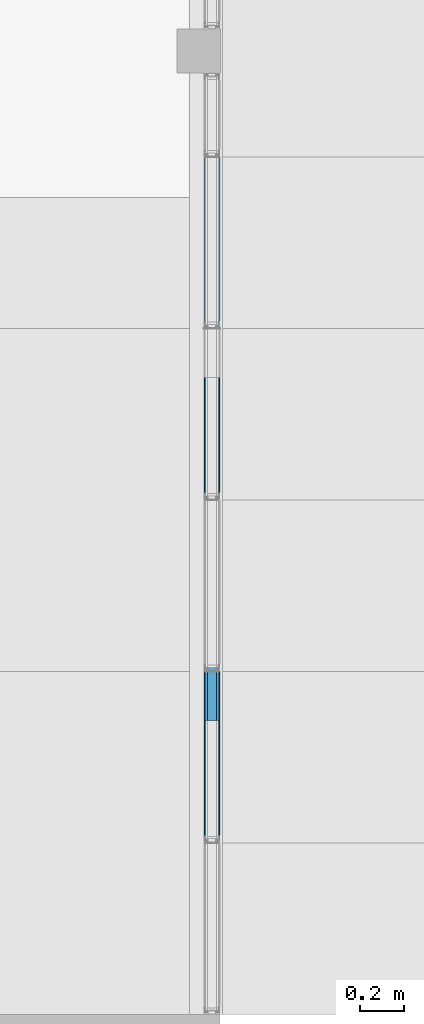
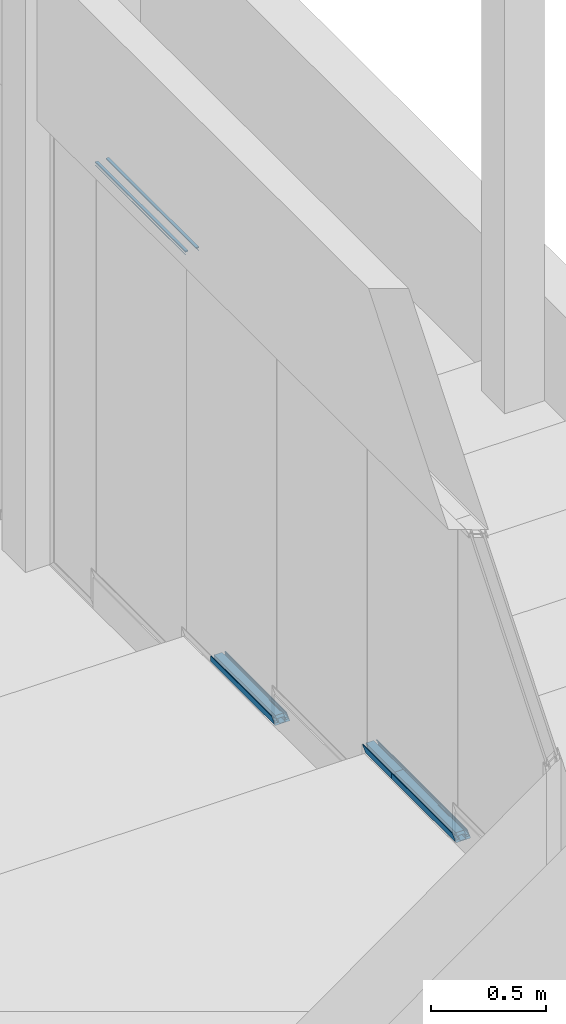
# One storey, part 41 of 65: 7 building element parts, 5 elements without a shape of their own.
"""IFC2X3 building model written with IfcOpenShell, lengths in millimetres."""

import ifcopenshell
import ifcopenshell.guid

model = None  # the IFC model being written
_history = None  # IfcOwnerHistory: only IFC2X3 demands one
_inside = {}  # id of a spatial element -> (the spatial element, [elements in it])
_under = {}  # id of a project, library or spatial element -> (it, [spatial elements below it])
_declared = {}  # id of a project -> (the project, [libraries it declares])
_typed = {}  # id of a type object -> (the type object, [elements of that type])
_made_of = {}  # id of a material, layer set ... -> (it, [elements and type objects made of it])


def new_model(schema):
    """Start an empty IFC model of exactly this schema.

    Asked for "IFC4X3", IfcOpenShell would pick the latest addendum, in which some entities
    have other attributes; the version numbers below select the first issue.
    IFC2X3 requires an IfcOwnerHistory on every rooted entity: one is made here for all.
    """
    global model, _history
    if schema == "IFC4X3":
        model = ifcopenshell.file(schema_version=(4, 3, 0, 0))
    else:
        model = ifcopenshell.file(schema=schema)
    _inside.clear()
    _under.clear()
    _declared.clear()
    _typed.clear()
    _made_of.clear()
    _history = None
    if model.schema == "IFC2X3":
        org = make("IfcOrganization", Name="unknown")
        user = make(
            "IfcPersonAndOrganization",
            ThePerson=make("IfcPerson", FamilyName="unknown"),
            TheOrganization=org,
        )
        app = make(
            "IfcApplication",
            ApplicationDeveloper=org,
            Version="unknown",
            ApplicationFullName="unknown",
            ApplicationIdentifier="unknown",
        )
        _history = make(
            "IfcOwnerHistory",
            OwningUser=user,
            OwningApplication=app,
            ChangeAction="ADDED",
            CreationDate=0,
        )
    return model


def make(cls, **values):
    """One entity of the class cls with the attributes given. An attribute that is None is left unset."""
    return model.create_entity(
        cls, **{name: value for name, value in values.items() if value is not None}
    )


def entity(cls, *values):
    """Any entity or typed value of the class cls, its attributes in the order of the schema. None: left unset."""
    e = model.create_entity(cls)
    for i, value in enumerate(values):
        if value is not None:
            e[i] = value
    return e


def rooted(cls, **values):
    """An entity with a GlobalId (a new one), such as an element, a storey or a relation."""
    return make(cls, GlobalId=ifcopenshell.guid.new(), OwnerHistory=_history, **values)


def si_unit(unit_type, name, prefix=None):
    """IfcSIUnit, for example si_unit("LENGTHUNIT", "METRE", prefix="MILLI")."""
    return make("IfcSIUnit", UnitType=unit_type, Prefix=prefix, Name=name)


def converted_unit(unit_type, name, factor, base, dimensions=None, offset=None):
    """IfcConversionBasedUnit, such as the inch: factor (a typed value) times the base unit."""
    return make(
        "IfcConversionBasedUnit"
        if offset is None
        else "IfcConversionBasedUnitWithOffset",
        ConversionOffset=offset,
        Dimensions=None
        if dimensions is None
        else entity("IfcDimensionalExponents", *dimensions),
        UnitType=unit_type,
        Name=name,
        ConversionFactor=make(
            "IfcMeasureWithUnit", ValueComponent=factor, UnitComponent=base
        ),
    )


def derived_unit(unit_type, elements):
    """IfcDerivedUnit: a product of units, each with its exponent."""
    return make(
        "IfcDerivedUnit",
        Elements=[
            make("IfcDerivedUnitElement", Unit=unit, Exponent=power)
            for unit, power in elements
        ],
        UnitType=unit_type,
    )


def money_unit(currency):
    """IfcMonetaryUnit."""
    return make("IfcMonetaryUnit", Currency=currency)


def assignment(units):
    """IfcUnitAssignment: the units of a project."""
    return None if units is None else make("IfcUnitAssignment", Units=units)


def point(xyz):
    """IfcCartesianPoint."""
    return None if xyz is None else make("IfcCartesianPoint", Coordinates=xyz)


def direction(xyz):
    """IfcDirection."""
    return None if xyz is None else make("IfcDirection", DirectionRatios=xyz)


def frame(location, z_axis=None, x_axis=None):
    """IfcAxis2Placement3D, a coordinate frame: its origin and axes. An axis left out is left unset."""
    return make(
        "IfcAxis2Placement3D",
        Location=point(location),
        Axis=direction(z_axis),
        RefDirection=direction(x_axis),
    )


def origin_with_axes():
    """The frame at (0, 0, 0) with the z axis (0, 0, 1) and the x axis (1, 0, 0) written out."""
    return frame((0.0, 0.0, 0.0), z_axis=(0.0, 0.0, 1.0), x_axis=(1.0, 0.0, 0.0))


def place(relative_to, where):
    """IfcLocalPlacement: puts the frame where relative to a parent placement (None: the world)."""
    return make(
        "IfcLocalPlacement", PlacementRelTo=relative_to, RelativePlacement=where
    )


def context(
    kind, dimensions, precision=None, world=None, true_north=None, identifier=None
):
    """IfcGeometricRepresentationContext, for example the 3D "Model" context."""
    return make(
        "IfcGeometricRepresentationContext",
        ContextIdentifier=identifier,
        ContextType=kind,
        CoordinateSpaceDimension=dimensions,
        Precision=precision,
        WorldCoordinateSystem=world,
        TrueNorth=true_north,
    )


def subcontext(parent, identifier, kind, view, scale=None):
    """IfcGeometricRepresentationSubContext, for example "Body" below "Model"."""
    return make(
        "IfcGeometricRepresentationSubContext",
        ContextIdentifier=identifier,
        ContextType=kind,
        ParentContext=parent,
        TargetScale=scale,
        TargetView=view,
    )


def project(units=None, contexts=None):
    """IfcProject with its units and contexts."""
    return rooted(
        "IfcProject",
        Name="project",
        RepresentationContexts=contexts,
        UnitsInContext=assignment(units),
    )


def spatial(cls, under=None, at=None, **own):
    """A site, building, storey or space (cls), placed at a placement, below another one or the project."""
    s = rooted(cls, ObjectPlacement=at, **own)
    if under is not None:
        _under.setdefault(under.id(), (under, []))[1].append(s)
    return s


def faces_of(points, faces, orient=None, outer=None):
    """IfcFace entities. A face is a list of loops; a loop is a list of indices into points, from 0.

    orient and outer hold one flag for each loop. By default every Orientation is true, the
    first loop of a face is its IfcFaceOuterBound and the others are IfcFaceBound.
    """
    made = []
    for i, loops in enumerate(faces):
        bounds = []
        for j, loop in enumerate(loops):
            is_outer = j == 0 if outer is None else outer[i][j]
            bounds.append(
                make(
                    "IfcFaceOuterBound" if is_outer else "IfcFaceBound",
                    Bound=make("IfcPolyLoop", Polygon=[points[k] for k in loop]),
                    Orientation=True if orient is None else orient[i][j],
                )
            )
        made.append(make("IfcFace", Bounds=bounds))
    return made


def faceted_brep(points, faces, orient=None, outer=None, voids=None):
    """IfcFacetedBrep: a solid bounded by flat faces; with voids (closed shells), ...WithVoids."""
    shared = [point(p) for p in points]
    hull = make("IfcClosedShell", CfsFaces=faces_of(shared, faces, orient, outer))
    if voids is None:
        return make("IfcFacetedBrep", Outer=hull)
    return make(
        "IfcFacetedBrepWithVoids",
        Outer=hull,
        Voids=[
            make(cls, CfsFaces=faces_of(shared, fs, o, b)) for cls, fs, o, b in voids
        ],
    )


def shape(context_of_items, identifier, shape_type, items):
    """IfcShapeRepresentation: the items that make up one representation, for example the "Body"."""
    return make(
        "IfcShapeRepresentation",
        ContextOfItems=context_of_items,
        RepresentationIdentifier=identifier,
        RepresentationType=shape_type,
        Items=items,
    )


def material(Name=None, Category=None):
    """IfcMaterial."""
    return make("IfcMaterial", Name=Name, Category=Category)


def made_of(thing, what):
    """Note that an element or type object is made of a material, layer set ...; save() writes the relation."""
    if what is not None:
        _made_of.setdefault(what.id(), (what, []))[1].append(thing)
    return thing


def type_object(cls, material=None, **own):
    """A type object (cls), such as IfcWallType, which elements share."""
    return made_of(rooted(cls, **own), material)


def element(
    cls,
    number,
    at=None,
    inside=None,
    cuts=None,
    type_object=None,
    material=None,
    context=None,
    identifier="Body",
    shape_type=None,
    held_by="IfcProductDefinitionShape",
    body=None,
    shapes=None,
    **own,
):
    """One element of the class cls, such as IfcWall. Its Tag is "e" and its number.

    at: its placement. inside: the storey or other place that contains it. cuts: it is an
    opening in that element (IfcRelVoidsElement). A single representation is given by context,
    identifier, shape_type and body (its items); several are given by shapes. held_by: the class
    of the entity that holds the representations. save() writes the other relations.
    """
    e = rooted(cls, Tag="e%d" % number, ObjectPlacement=at, **own)
    if body is not None:
        shapes = [shape(context, identifier, shape_type, body)]
    if shapes is not None:
        e.Representation = make(held_by, Representations=shapes)
    if inside is not None:
        _inside.setdefault(inside.id(), (inside, []))[1].append(e)
    if cuts is not None:
        rooted(
            "IfcRelVoidsElement", RelatingBuildingElement=cuts, RelatedOpeningElement=e
        )
    if type_object is not None:
        _typed.setdefault(type_object.id(), (type_object, []))[1].append(e)
    return made_of(e, material)


def aggregate(whole, parts):
    """IfcRelAggregates: a whole, such as a stair, and the parts it consists of."""
    return rooted("IfcRelAggregates", RelatingObject=whole, RelatedObjects=parts)


def save(model, path):
    """Write the relations noted so far, then the file.

    IfcRelAggregates (storeys below a building ...), IfcRelContainedInSpatialStructure (elements
    in a storey), IfcRelDefinesByType, IfcRelAssociatesMaterial and IfcRelDeclares: one each for
    every whole, place, type object, material and project.
    """
    for whole, parts in _under.values():
        aggregate(whole, parts)
    for where, things in _inside.values():
        rooted(
            "IfcRelContainedInSpatialStructure",
            RelatedElements=things,
            RelatingStructure=where,
        )
    for kind, things in _typed.values():
        rooted("IfcRelDefinesByType", RelatedObjects=things, RelatingType=kind)
    for what, things in _made_of.values():
        rooted("IfcRelAssociatesMaterial", RelatedObjects=things, RelatingMaterial=what)
    for by, libraries in _declared.values():
        rooted("IfcRelDeclares", RelatingContext=by, RelatedDefinitions=libraries)
    model.write(path)


model = new_model("IFC2X3")

# Units and contexts
model_context = context("Model", 3, precision=0.01, world=origin_with_axes(), true_north=direction((0.0, 1.0)))
body_context = subcontext(model_context, "Body", "Model", "MODEL_VIEW")
ifc_project = project(units=[si_unit("LENGTHUNIT", "METRE", prefix="MILLI"), si_unit("AREAUNIT", "SQUARE_METRE"), si_unit("VOLUMEUNIT", "CUBIC_METRE"), converted_unit("PLANEANGLEUNIT", "DEGREE", entity("IfcPlaneAngleMeasure", 0.0174532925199), si_unit("PLANEANGLEUNIT", "RADIAN"), dimensions=[0, 0, 0, 0, 0, 0, 0]), si_unit("SOLIDANGLEUNIT", "STERADIAN"), money_unit("EUR"), converted_unit("TIMEUNIT", "Year", entity("IfcTimeMeasure", 31556926.0), si_unit("TIMEUNIT", "SECOND"), dimensions=[0, 0, 1, 0, 0, 0, 0]), si_unit("MASSUNIT", "GRAM", prefix="KILO"), si_unit("THERMODYNAMICTEMPERATUREUNIT", "DEGREE_CELSIUS"), si_unit("LUMINOUSINTENSITYUNIT", "LUMEN"), si_unit("ENERGYUNIT", "JOULE", prefix="MEGA"), derived_unit("THERMALCONDUCTANCEUNIT", [(si_unit("POWERUNIT", "WATT"), 1), (si_unit("LENGTHUNIT", "METRE"), -1), (si_unit("THERMODYNAMICTEMPERATUREUNIT", "KELVIN"), -1)]), derived_unit("SPECIFICHEATCAPACITYUNIT", [(si_unit("ENERGYUNIT", "JOULE"), 1), (si_unit("MASSUNIT", "GRAM", prefix="KILO"), -1), (si_unit("THERMODYNAMICTEMPERATUREUNIT", "KELVIN"), -1)]), derived_unit("MASSDENSITYUNIT", [(si_unit("MASSUNIT", "GRAM", prefix="KILO"), 1), (si_unit("VOLUMEUNIT", "CUBIC_METRE"), -1)])], contexts=[model_context])

# Site, building, storey
site_placement = place(None, origin_with_axes())
site = spatial("IfcSite", under=ifc_project, at=site_placement, Name="Puškini 31, Narva", CompositionType="ELEMENT")
building_placement = place(site_placement, origin_with_axes())
building = spatial("IfcBuilding", under=site, at=building_placement, Name="Narva Riigigümnaasium", CompositionType="ELEMENT")
storey_placement = place(building_placement, frame((0.0, 0.0, -1320.0), z_axis=(0.0, 0.0, 1.0), x_axis=(1.0, 0.0, 0.0)))
storey = spatial("IfcBuildingStorey", under=building, at=storey_placement, Name="1.korrus -1.32", CompositionType="ELEMENT", Elevation=-1320.0)

# Curtain wall, members, building element parts
curtain_wall_type = type_object("IfcCurtainWallType", Name="Curtain Wall Type", PredefinedType="NOTDEFINED")
curtain_wall_placement = place(storey_placement, frame((30362.9999948, 159591.499992, 330.0), z_axis=(0.0, 0.0, 1.0), x_axis=(1.0, 0.0, 0.0)))
curtain_wall = element("IfcCurtainWall", 1, at=curtain_wall_placement, inside=storey, type_object=curtain_wall_type, Name="G-SKLF-03")
member_type = type_object("IfcMemberType", Name="30 x 37", PredefinedType="MULLION")
member_1_placement = place(curtain_wall_placement, frame((0.0, 3523.5, 2369.99992686), z_axis=(0.0, -1.0, -2.12102340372e-08), x_axis=(0.0, 2.12102340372e-08, -1.0)))
member_1 = element("IfcMember", 2, at=member_1_placement, type_object=member_type, Name="G-SKLF-36-raam", ObjectType="MULLION")
ifc_material_1 = material(Name="Klaasvill")
building_element_part_1_placement = place(member_1_placement, origin_with_axes())
building_element_part_1 = element("IfcBuildingElementPart", 3, at=building_element_part_1_placement, material=ifc_material_1, Name="Klaasvill", context=body_context, shape_type="Brep", body=[
    faceted_brep([(7.49999990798, 20.000000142, -4.74490379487e-07), (13.8499999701, 20.000000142, -4.74490379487e-07), (13.8499999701, 20.000000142, 781.799979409), (7.49999990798, 20.000000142, 781.799979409), (7.49999990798, 34.0161444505, -4.74490379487e-07), (13.8499999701, 34.0161444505, -4.74490379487e-07), (13.8499999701, 34.0161444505, 781.799979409), (7.49999990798, 34.0161444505, 781.799979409)], [[[0, 1, 2, 3]], [[0, 4, 5, 1]], [[1, 5, 6, 2]], [[3, 2, 6, 7]], [[4, 0, 3, 7]], [[5, 4, 7, 6]]]),
    faceted_brep([(24.987414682, 34.0161444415, -4.74490379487e-07), (25.004489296, 32.0307503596, -4.74490379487e-07), (25.004489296, 32.0307503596, 781.799979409), (24.987414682, 34.0161444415, 781.799979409), (28.5126239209, 34.0161444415, -4.74490379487e-07), (28.7655837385, 33.0385325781, -4.74490379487e-07), (28.4955493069, 32.0307503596, -4.74490379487e-07), (27.75780152, 31.2930025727, -4.74490379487e-07), (26.7500193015, 31.0229681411, -4.74490379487e-07), (25.742237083, 31.2930025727, -4.74490379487e-07), (25.742237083, 31.2930025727, 781.799979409), (26.7500193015, 31.0229681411, 781.799979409), (27.75780152, 31.2930025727, 781.799979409), (28.4955493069, 32.0307503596, 781.799979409), (28.7655837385, 33.0385325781, 781.799979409), (28.5126239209, 34.0161444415, 781.799979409)], [[[0, 1, 2, 3]], [[0, 4, 5, 6, 7, 8, 9, 1]], [[1, 9, 10, 2]], [[3, 2, 10, 11, 12, 13, 14, 15]], [[4, 0, 3, 15]], [[5, 4, 15, 14]], [[6, 5, 14, 13]], [[7, 6, 13, 12]], [[8, 7, 12, 11]], [[9, 8, 11, 10]]]),
    faceted_brep([(7.49999990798, -19.9999997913, -4.74490379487e-07), (7.49999990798, -34.0161445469, -4.74490379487e-07), (7.49999990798, -34.0161445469, 781.799979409), (7.49999990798, -19.9999997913, 781.799979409), (13.8499999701, -19.9999997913, -4.74490379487e-07), (13.8499999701, -34.0161445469, -4.74490379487e-07), (13.8499999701, -34.0161445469, 781.799979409), (13.8499999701, -19.9999997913, 781.799979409)], [[[0, 1, 2, 3]], [[0, 4, 5, 1]], [[1, 5, 6, 2]], [[3, 2, 6, 7]], [[4, 0, 3, 7]], [[5, 4, 7, 6]]]),
    faceted_brep([(25.004489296, -32.0307503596, -4.74490379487e-07), (24.987414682, -34.0161444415, -4.74490379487e-07), (24.987414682, -34.0161444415, 781.799979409), (25.004489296, -32.0307503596, 781.799979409), (25.742237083, -31.2930025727, -4.74490379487e-07), (26.7500193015, -31.0229681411, -4.74490379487e-07), (27.75780152, -31.2930025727, -4.74490379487e-07), (28.4955493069, -32.0307503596, -4.74490379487e-07), (28.7655837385, -33.0385325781, -4.74490379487e-07), (28.5126239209, -34.0161444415, -4.74490379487e-07), (28.5126239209, -34.0161444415, 781.799979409), (28.7655837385, -33.0385325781, 781.799979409), (28.4955493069, -32.0307503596, 781.799979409), (27.75780152, -31.2930025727, 781.799979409), (26.7500193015, -31.0229681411, 781.799979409), (25.742237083, -31.2930025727, 781.799979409)], [[[0, 1, 2, 3]], [[0, 4, 5, 6, 7, 8, 9, 1]], [[1, 9, 10, 2]], [[3, 2, 10, 11, 12, 13, 14, 15]], [[4, 0, 3, 15]], [[5, 4, 15, 14]], [[6, 5, 14, 13]], [[7, 6, 13, 12]], [[8, 7, 12, 11]], [[9, 8, 11, 10]]]),
])
aggregate(member_1, [building_element_part_1])
member_2_placement = place(curtain_wall_placement, frame((0.0, 950.100022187, 660.000122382), z_axis=(0.0, 1.0, -5.13248461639e-07), x_axis=(0.0, 5.13248461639e-07, 1.0)))
member_2 = element("IfcMember", 4, at=member_2_placement, type_object=member_type, Name="G-SKLF-41-raam", ObjectType="MULLION")
building_element_part_2_placement = place(member_2_placement, origin_with_axes())
building_element_part_2 = element("IfcBuildingElementPart", 5, at=building_element_part_2_placement, material=ifc_material_1, Name="Klaasvill", context=body_context, shape_type="Brep", body=[
    faceted_brep([(7.49999990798, 20.000000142, -9.13452629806e-06), (13.8499999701, 20.000000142, -9.13452629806e-06), (13.8499999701, 20.000000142, 238.249970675), (7.49999990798, 20.000000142, 231.899973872), (7.49999990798, 34.0161444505, -9.13452629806e-06), (13.8499999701, 34.0161444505, -9.13452629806e-06), (13.8499999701, 34.0161444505, 238.249970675), (7.49999990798, 34.0161444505, 231.899973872)], [[[0, 1, 2, 3]], [[0, 4, 5, 1]], [[1, 5, 6, 2]], [[3, 2, 6, 7]], [[4, 0, 3, 7]], [[5, 4, 7, 6]]]),
    faceted_brep([(24.987414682, 34.0161444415, -9.13452629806e-06), (25.004489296, 32.0307503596, -9.13452629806e-06), (25.004489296, 32.0307503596, 249.404454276), (24.987414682, 34.0161444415, 249.387379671), (28.5126239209, 34.0161444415, -9.13452629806e-06), (28.7655837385, 33.0385325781, -9.13452629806e-06), (28.4955493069, 32.0307503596, -9.13452629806e-06), (27.75780152, 31.2930025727, -9.13452629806e-06), (26.7500193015, 31.0229681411, -9.13452629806e-06), (25.742237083, 31.2930025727, -9.13452629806e-06), (25.742237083, 31.2930025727, 250.142201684), (26.7500193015, 31.0229681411, 251.149983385), (27.75780152, 31.2930025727, 252.157765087), (28.4955493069, 32.0307503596, 252.895512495), (28.7655837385, 33.0385325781, 253.165546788), (28.5126239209, 34.0161444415, 252.9125871)], [[[0, 1, 2, 3]], [[0, 4, 5, 6, 7, 8, 9, 1]], [[1, 9, 10, 2]], [[3, 2, 10, 11, 12, 13, 14, 15]], [[4, 0, 3, 15]], [[5, 4, 15, 14]], [[6, 5, 14, 13]], [[7, 6, 13, 12]], [[8, 7, 12, 11]], [[9, 8, 11, 10]]]),
    faceted_brep([(7.49999990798, -19.9999997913, -9.13452629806e-06), (7.49999990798, -34.0161445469, -9.13452629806e-06), (7.49999990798, -34.0161445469, 231.899973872), (7.49999990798, -19.9999997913, 231.899973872), (13.8499999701, -19.9999997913, -9.13452629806e-06), (13.8499999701, -34.0161445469, -9.13452629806e-06), (13.8499999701, -34.0161445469, 238.249970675), (13.8499999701, -19.9999997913, 238.249970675)], [[[0, 1, 2, 3]], [[0, 4, 5, 1]], [[1, 5, 6, 2]], [[3, 2, 6, 7]], [[4, 0, 3, 7]], [[5, 4, 7, 6]]]),
    faceted_brep([(25.004489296, -32.0307503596, -9.13452629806e-06), (24.987414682, -34.0161444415, -9.13452629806e-06), (24.987414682, -34.0161444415, 249.387379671), (25.004489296, -32.0307503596, 249.404454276), (25.742237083, -31.2930025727, -9.13452629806e-06), (26.7500193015, -31.0229681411, -9.13452629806e-06), (27.75780152, -31.2930025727, -9.13452629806e-06), (28.4955493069, -32.0307503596, -9.13452629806e-06), (28.7655837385, -33.0385325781, -9.13452629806e-06), (28.5126239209, -34.0161444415, -9.13452629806e-06), (28.5126239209, -34.0161444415, 252.9125871), (28.7655837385, -33.0385325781, 253.165546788), (28.4955493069, -32.0307503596, 252.895512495), (27.75780152, -31.2930025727, 252.157765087), (26.7500193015, -31.0229681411, 251.149983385), (25.742237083, -31.2930025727, 250.142201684)], [[[0, 1, 2, 3]], [[0, 4, 5, 6, 7, 8, 9, 1]], [[1, 9, 10, 2]], [[3, 2, 10, 11, 12, 13, 14, 15]], [[4, 0, 3, 15]], [[5, 4, 15, 14]], [[6, 5, 14, 13]], [[7, 6, 13, 12]], [[8, 7, 12, 11]], [[9, 8, 11, 10]]]),
])
ifc_material_2 = material(Name="Teras RAL7012")
building_element_part_3_placement = place(member_2_placement, origin_with_axes())
building_element_part_3 = element("IfcBuildingElementPart", 6, at=building_element_part_3_placement, material=ifc_material_2, Name="Teras RAL7012", context=body_context, shape_type="Brep", body=[
    faceted_brep([(0.0, -17.0000000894, -9.13452629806e-06), (29.5999996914, -17.0000000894, -9.13452629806e-06), (29.5999996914, -17.0000000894, 253.999962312), (0.0, -17.0000000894, 224.399977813), (0.0, 17.0000000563, -9.13452629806e-06), (29.5999996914, 17.0000000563, -9.13452629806e-06), (1.9999999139, 15.0000001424, -9.13452629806e-06), (1.9999999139, -15.0000001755, -9.13452629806e-06), (18.7999996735, -15.0000001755, -9.13452629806e-06), (18.7999996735, 15.0000001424, -9.13452629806e-06), (29.5999996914, 17.0000000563, 253.999962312), (0.0, 17.0000000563, 224.399977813), (1.9999999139, 15.0000001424, 226.399976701), (18.7999996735, 15.0000001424, 243.199967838), (18.7999996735, -15.0000001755, 243.199967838), (1.9999999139, -15.0000001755, 226.399976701)], [[[0, 1, 2, 3]], [[0, 4, 5, 1], [6, 7, 8, 9]], [[1, 5, 10, 2]], [[3, 2, 10, 11], [12, 13, 14, 15]], [[4, 0, 3, 11]], [[5, 4, 11, 10]], [[7, 6, 12, 15]], [[8, 7, 15, 14]], [[9, 8, 14, 13]], [[6, 9, 13, 12]]]),
    faceted_brep([(0.0, 17.0, -9.13452630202e-06), (0.0, 17.0, 224.399977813), (0.0, 37.0, 224.399977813), (0.0, 37.0, -9.13452630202e-06), (29.5999996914, 17.0000000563, -9.13452630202e-06), (29.5999996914, 17.0000000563, 253.999962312), (30.0000193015, 17.0, 254.399981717), (30.0000193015, 20.0, 254.399981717), (13.8499999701, 20.000000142, 238.249970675), (7.49999999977, 20.0, 231.899973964), (7.49999999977, 34.0161444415, 231.899973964), (13.8499999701, 34.0161444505, 238.249970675), (24.987414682, 34.0161444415, 249.387379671), (28.5126239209, 34.0161444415, 252.9125871), (30.0000193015, 34.0161444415, 254.399981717), (30.0000193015, 37.0, 254.399981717), (30.0000193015, 37.0, -9.13452630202e-06), (7.49999999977, 20.0, -9.13452630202e-06), (13.8499999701, 20.000000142, -9.13452630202e-06), (30.0000193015, 20.0, -9.13452630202e-06), (30.0000193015, 17.0, -9.13452630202e-06), (30.0000193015, 34.0161444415, -9.13452630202e-06), (28.5126239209, 34.0161444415, -9.13452630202e-06), (24.987414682, 34.0161444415, -9.13452630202e-06), (13.8499999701, 34.0161444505, -9.13452630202e-06), (7.49999999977, 34.0161444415, -9.13452630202e-06)], [[[0, 1, 2, 3]], [[1, 0, 4, 5]], [[2, 1, 5, 6, 7, 8, 9, 10, 11, 12, 13, 14, 15]], [[3, 2, 15, 16]], [[17, 18, 19, 20, 4, 0, 3, 16, 21, 22, 23, 24, 25]], [[4, 20, 6, 5]], [[20, 19, 7, 6]], [[19, 18, 8, 7]], [[18, 17, 9, 8]], [[17, 25, 10, 9]], [[10, 25, 24, 11]], [[24, 23, 12, 11]], [[23, 22, 13, 12]], [[22, 21, 14, 13]], [[14, 21, 16, 15]]]),
    faceted_brep([(0.0, -37.0, -9.13452630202e-06), (0.0, -37.0, 224.399977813), (0.0, -17.0, 224.399977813), (0.0, -17.0, -9.13452630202e-06), (30.0000193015, -37.0, -9.13452630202e-06), (30.0000193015, -37.0, 254.399981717), (30.0000193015, -34.0161444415, 254.399981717), (28.5126239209, -34.0161444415, 252.9125871), (24.987414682, -34.0161444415, 249.387379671), (13.8499999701, -34.0161445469, 238.249970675), (7.49999999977, -34.0161444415, 231.899973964), (7.49999999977, -20.0, 231.899973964), (13.8499999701, -19.9999997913, 238.249970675), (30.0000193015, -20.0, 254.399981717), (30.0000193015, -17.0, 254.399981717), (29.5999996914, -17.0000000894, 253.999962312), (29.5999996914, -17.0000000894, -9.13452630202e-06), (7.49999999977, -34.0161444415, -9.13452630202e-06), (13.8499999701, -34.0161445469, -9.13452630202e-06), (24.987414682, -34.0161444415, -9.13452630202e-06), (28.5126239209, -34.0161444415, -9.13452630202e-06), (30.0000193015, -34.0161444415, -9.13452630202e-06), (30.0000193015, -17.0, -9.13452630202e-06), (30.0000193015, -20.0, -9.13452630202e-06), (13.8499999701, -19.9999997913, -9.13452630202e-06), (7.49999999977, -20.0, -9.13452630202e-06)], [[[0, 1, 2, 3]], [[1, 0, 4, 5]], [[2, 1, 5, 6, 7, 8, 9, 10, 11, 12, 13, 14, 15]], [[3, 2, 15, 16]], [[17, 18, 19, 20, 21, 4, 0, 3, 16, 22, 23, 24, 25]], [[4, 21, 6, 5]], [[21, 20, 7, 6]], [[20, 19, 8, 7]], [[18, 9, 8, 19]], [[18, 17, 10, 9]], [[17, 25, 11, 10]], [[11, 25, 24, 12]], [[24, 23, 13, 12]], [[23, 22, 14, 13]], [[16, 15, 14, 22]]]),
])
aggregate(member_2, [building_element_part_2, building_element_part_3])
member_3_placement = place(curtain_wall_placement, frame((0.0, 391.5, 660.000068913), z_axis=(0.0, 1.0, 9.57195664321e-08), x_axis=(0.0, -9.57195664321e-08, 1.0)))
member_3 = element("IfcMember", 7, at=member_3_placement, type_object=member_type, Name="G-SKLF-15-raam", ObjectType="MULLION")
building_element_part_4_placement = place(member_3_placement, origin_with_axes())
building_element_part_4 = element("IfcBuildingElementPart", 8, at=building_element_part_4_placement, material=ifc_material_1, Name="Klaasvill", context=body_context, shape_type="Brep", body=[
    faceted_brep([(13.8499999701, 20.000000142, 13.8500012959), (13.8499999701, 20.000000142, 558.600031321), (7.49999990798, 20.000000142, 558.600031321), (7.49999990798, 20.000000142, 7.50000062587), (13.8499999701, 34.0161444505, 13.8500012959), (13.8499999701, 34.0161444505, 558.600031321), (7.49999990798, 34.0161444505, 558.600031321), (7.49999990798, 34.0161444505, 7.50000062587)], [[[0, 1, 2, 3]], [[4, 5, 1, 0]], [[2, 1, 5, 6]], [[3, 2, 6, 7]], [[3, 7, 4, 0]], [[7, 6, 5, 4]]]),
    faceted_brep([(25.004489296, 32.0307503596, 25.0044916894), (25.004489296, 32.0307503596, 558.600031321), (24.987414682, 34.0161444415, 558.600031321), (24.987414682, 34.0161444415, 24.9874170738), (25.742237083, 31.2930025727, 25.742239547), (25.742237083, 31.2930025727, 558.600031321), (26.7500193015, 31.0229681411, 558.600031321), (27.75780152, 31.2930025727, 558.600031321), (28.4955493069, 32.0307503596, 558.600031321), (28.7655837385, 33.0385325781, 558.600031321), (28.5126239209, 34.0161444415, 558.600031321), (28.5126239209, 34.0161444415, 28.5126266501), (28.7655837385, 33.0385325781, 28.765586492), (28.4955493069, 32.0307503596, 28.4955520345), (27.75780152, 31.2930025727, 27.757804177), (26.7500193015, 31.0229681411, 26.750021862)], [[[0, 1, 2, 3]], [[4, 5, 1, 0]], [[2, 1, 5, 6, 7, 8, 9, 10]], [[3, 2, 10, 11]], [[3, 11, 12, 13, 14, 15, 4, 0]], [[15, 6, 5, 4]], [[14, 7, 6, 15]], [[13, 8, 7, 14]], [[12, 9, 8, 13]], [[11, 10, 9, 12]]]),
    faceted_brep([(7.49999990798, -34.0161445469, 7.50000062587), (7.49999990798, -34.0161445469, 558.600031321), (7.49999990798, -19.9999997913, 558.600031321), (7.49999990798, -19.9999997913, 7.50000062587), (13.8499999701, -34.0161445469, 13.8500012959), (13.8499999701, -34.0161445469, 558.600031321), (13.8499999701, -19.9999997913, 558.600031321), (13.8499999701, -19.9999997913, 13.8500012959)], [[[0, 1, 2, 3]], [[4, 5, 1, 0]], [[2, 1, 5, 6]], [[3, 2, 6, 7]], [[3, 7, 4, 0]], [[7, 6, 5, 4]]]),
    faceted_brep([(24.987414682, -34.0161444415, 24.9874170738), (24.987414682, -34.0161444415, 558.600031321), (25.004489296, -32.0307503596, 558.600031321), (25.004489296, -32.0307503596, 25.0044916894), (28.5126239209, -34.0161444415, 28.5126266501), (28.5126239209, -34.0161444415, 558.600031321), (28.7655837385, -33.0385325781, 558.600031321), (28.4955493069, -32.0307503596, 558.600031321), (27.75780152, -31.2930025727, 558.600031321), (26.7500193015, -31.0229681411, 558.600031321), (25.742237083, -31.2930025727, 558.600031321), (25.742237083, -31.2930025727, 25.742239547), (26.7500193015, -31.0229681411, 26.750021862), (27.75780152, -31.2930025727, 27.757804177), (28.4955493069, -32.0307503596, 28.4955520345), (28.7655837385, -33.0385325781, 28.765586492)], [[[0, 1, 2, 3]], [[4, 5, 1, 0]], [[2, 1, 5, 6, 7, 8, 9, 10]], [[3, 2, 10, 11]], [[3, 11, 12, 13, 14, 15, 4, 0]], [[15, 6, 5, 4]], [[14, 7, 6, 15]], [[13, 8, 7, 14]], [[12, 9, 8, 13]], [[11, 10, 9, 12]]]),
])
building_element_part_5_placement = place(member_3_placement, origin_with_axes())
building_element_part_5 = element("IfcBuildingElementPart", 9, at=building_element_part_5_placement, material=ifc_material_2, Name="Teras RAL7012", context=body_context, shape_type="Brep", body=[
    faceted_brep([(29.5999996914, -17.0000000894, 29.6000025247), (29.5999996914, -17.0000000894, 558.600031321), (0.0, -17.0000000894, 558.600031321), (0.0, -17.0000000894, 0.0), (29.5999996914, 17.0000000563, 29.6000025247), (29.5999996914, 17.0000000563, 558.600031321), (0.0, 17.0000000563, 558.600031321), (1.9999999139, 15.0000001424, 558.600031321), (18.7999996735, 15.0000001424, 558.600031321), (18.7999996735, -15.0000001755, 558.600031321), (1.9999999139, -15.0000001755, 558.600031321), (0.0, 17.0000000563, 0.0), (1.9999999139, 15.0000001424, 2.00000010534), (1.9999999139, -15.0000001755, 2.00000010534), (18.7999996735, -15.0000001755, 18.800001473), (18.7999996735, 15.0000001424, 18.800001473)], [[[0, 1, 2, 3]], [[4, 5, 1, 0]], [[2, 1, 5, 6], [7, 8, 9, 10]], [[3, 2, 6, 11]], [[3, 11, 4, 0], [12, 13, 14, 15]], [[11, 6, 5, 4]], [[15, 8, 7, 12]], [[14, 9, 8, 15]], [[13, 10, 9, 14]], [[12, 7, 10, 13]]]),
    faceted_brep([(29.5999996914, 17.0000000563, 29.6000025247), (29.5999996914, 17.0000000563, 558.600031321), (0.0, 17.0, 558.600031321), (0.0, 17.0, 0.0), (30.0000193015, 17.0, 30.0000221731), (30.0000193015, 17.0, 558.600031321), (30.0000193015, 20.0, 558.600031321), (13.8499999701, 20.000000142, 558.600031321), (7.49999999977, 20.0, 558.600031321), (7.49999999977, 34.0161444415, 558.600031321), (13.8499999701, 34.0161444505, 558.600031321), (24.987414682, 34.0161444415, 558.600031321), (28.5126239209, 34.0161444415, 558.600031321), (30.0000193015, 34.0161444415, 558.600031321), (30.0000193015, 37.0, 558.600031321), (0.0, 37.0, 558.600031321), (0.0, 37.0, 0.0), (30.0000193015, 37.0, 30.0000221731), (30.0000193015, 34.0161444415, 30.0000221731), (28.5126239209, 34.0161444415, 28.5126266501), (24.987414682, 34.0161444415, 24.9874170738), (13.8499999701, 34.0161444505, 13.8500012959), (7.49999999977, 34.0161444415, 7.50000071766), (7.49999999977, 20.0, 7.50000071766), (13.8499999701, 20.000000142, 13.8500012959), (30.0000193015, 20.0, 30.0000221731)], [[[0, 1, 2, 3]], [[4, 5, 1, 0]], [[2, 1, 5, 6, 7, 8, 9, 10, 11, 12, 13, 14, 15]], [[3, 2, 15, 16]], [[3, 16, 17, 18, 19, 20, 21, 22, 23, 24, 25, 4, 0]], [[25, 6, 5, 4]], [[24, 7, 6, 25]], [[23, 8, 7, 24]], [[22, 9, 8, 23]], [[21, 10, 9, 22]], [[20, 11, 10, 21]], [[19, 12, 11, 20]], [[18, 13, 12, 19]], [[17, 14, 13, 18]], [[16, 15, 14, 17]]]),
    faceted_brep([(0.0, -37.0, 0.0), (0.0, -37.0, 558.600031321), (0.0, -17.0, 558.600031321), (0.0, -17.0, 0.0), (30.0000193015, -37.0, 30.0000221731), (30.0000193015, -37.0, 558.600031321), (30.0000193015, -34.0161444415, 558.600031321), (28.5126239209, -34.0161444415, 558.600031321), (24.987414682, -34.0161444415, 558.600031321), (13.8499999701, -34.0161445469, 558.600031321), (7.49999999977, -34.0161444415, 558.600031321), (7.49999999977, -20.0, 558.600031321), (13.8499999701, -19.9999997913, 558.600031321), (30.0000193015, -20.0, 558.600031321), (30.0000193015, -17.0, 558.600031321), (29.5999996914, -17.0000000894, 558.600031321), (29.5999996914, -17.0000000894, 29.6000025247), (30.0000193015, -17.0, 30.0000221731), (30.0000193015, -20.0, 30.0000221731), (13.8499999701, -19.9999997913, 13.8500012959), (7.49999999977, -20.0, 7.50000071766), (7.49999999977, -34.0161444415, 7.50000071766), (13.8499999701, -34.0161445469, 13.8500012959), (24.987414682, -34.0161444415, 24.9874170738), (28.5126239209, -34.0161444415, 28.5126266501), (30.0000193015, -34.0161444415, 30.0000221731)], [[[0, 1, 2, 3]], [[4, 5, 1, 0]], [[2, 1, 5, 6, 7, 8, 9, 10, 11, 12, 13, 14, 15]], [[3, 2, 15, 16]], [[3, 16, 17, 18, 19, 20, 21, 22, 23, 24, 25, 4, 0]], [[25, 6, 5, 4]], [[24, 7, 6, 25]], [[23, 8, 7, 24]], [[22, 9, 8, 23]], [[21, 10, 9, 22]], [[20, 11, 10, 21]], [[19, 12, 11, 20]], [[18, 13, 12, 19]], [[17, 14, 13, 18]], [[16, 15, 14, 17]]]),
])
aggregate(member_3, [building_element_part_4, building_element_part_5])
member_4_placement = place(curtain_wall_placement, frame((0.0, 1957.5, 329.999997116), z_axis=(0.0, 1.0, 0.0), x_axis=(0.0, 0.0, 1.0)))
member_4 = element("IfcMember", 10, at=member_4_placement, type_object=member_type, Name="G-SKLF-33-raam", ObjectType="MULLION")
aggregate(curtain_wall, [member_1, member_2, member_3, member_4])
building_element_part_6_placement = place(member_4_placement, origin_with_axes())
building_element_part_6 = element("IfcBuildingElementPart", 11, at=building_element_part_6_placement, material=ifc_material_1, Name="Klaasvill", context=body_context, shape_type="Brep", body=[
    faceted_brep([(13.8499999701, 20.000000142, 13.8499999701), (13.8499999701, 20.000000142, 559.200043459), (7.49999990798, 20.000000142, 559.200043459), (7.49999990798, 20.000000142, 7.49999990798), (13.8499999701, 34.0161444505, 13.8499999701), (13.8499999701, 34.0161444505, 559.200043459), (7.49999990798, 34.0161444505, 559.200043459), (7.49999990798, 34.0161444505, 7.49999990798)], [[[0, 1, 2, 3]], [[4, 5, 1, 0]], [[2, 1, 5, 6]], [[3, 2, 6, 7]], [[3, 7, 4, 0]], [[7, 6, 5, 4]]]),
    faceted_brep([(25.004489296, 32.0307503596, 25.004489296), (25.004489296, 32.0307503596, 559.200043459), (24.987414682, 34.0161444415, 559.200043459), (24.987414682, 34.0161444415, 24.987414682), (25.742237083, 31.2930025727, 25.742237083), (25.742237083, 31.2930025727, 559.200043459), (26.7500193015, 31.0229681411, 559.200043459), (27.75780152, 31.2930025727, 559.200043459), (28.4955493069, 32.0307503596, 559.200043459), (28.7655837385, 33.0385325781, 559.200043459), (28.5126239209, 34.0161444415, 559.200043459), (28.5126239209, 34.0161444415, 28.5126239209), (28.7655837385, 33.0385325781, 28.7655837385), (28.4955493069, 32.0307503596, 28.4955493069), (27.75780152, 31.2930025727, 27.75780152), (26.7500193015, 31.0229681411, 26.7500193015)], [[[0, 1, 2, 3]], [[4, 5, 1, 0]], [[2, 1, 5, 6, 7, 8, 9, 10]], [[3, 2, 10, 11]], [[3, 11, 12, 13, 14, 15, 4, 0]], [[15, 6, 5, 4]], [[14, 7, 6, 15]], [[13, 8, 7, 14]], [[12, 9, 8, 13]], [[11, 10, 9, 12]]]),
    faceted_brep([(7.49999990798, -34.0161445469, 7.49999990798), (7.49999990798, -34.0161445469, 559.200043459), (7.49999990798, -19.9999997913, 559.200043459), (7.49999990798, -19.9999997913, 7.49999990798), (13.8499999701, -34.0161445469, 13.8499999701), (13.8499999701, -34.0161445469, 559.200043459), (13.8499999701, -19.9999997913, 559.200043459), (13.8499999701, -19.9999997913, 13.8499999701)], [[[0, 1, 2, 3]], [[4, 5, 1, 0]], [[2, 1, 5, 6]], [[3, 2, 6, 7]], [[3, 7, 4, 0]], [[7, 6, 5, 4]]]),
    faceted_brep([(24.987414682, -34.0161444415, 24.987414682), (24.987414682, -34.0161444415, 559.200043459), (25.004489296, -32.0307503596, 559.200043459), (25.004489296, -32.0307503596, 25.004489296), (28.5126239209, -34.0161444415, 28.5126239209), (28.5126239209, -34.0161444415, 559.200043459), (28.7655837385, -33.0385325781, 559.200043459), (28.4955493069, -32.0307503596, 559.200043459), (27.75780152, -31.2930025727, 559.200043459), (26.7500193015, -31.0229681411, 559.200043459), (25.742237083, -31.2930025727, 559.200043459), (25.742237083, -31.2930025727, 25.742237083), (26.7500193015, -31.0229681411, 26.7500193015), (27.75780152, -31.2930025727, 27.75780152), (28.4955493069, -32.0307503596, 28.4955493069), (28.7655837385, -33.0385325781, 28.7655837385)], [[[0, 1, 2, 3]], [[4, 5, 1, 0]], [[2, 1, 5, 6, 7, 8, 9, 10]], [[3, 2, 10, 11]], [[3, 11, 12, 13, 14, 15, 4, 0]], [[15, 6, 5, 4]], [[14, 7, 6, 15]], [[13, 8, 7, 14]], [[12, 9, 8, 13]], [[11, 10, 9, 12]]]),
])
building_element_part_7_placement = place(member_4_placement, origin_with_axes())
building_element_part_7 = element("IfcBuildingElementPart", 12, at=building_element_part_7_placement, material=ifc_material_2, Name="Teras RAL7012", context=body_context, shape_type="Brep", body=[
    faceted_brep([(29.5999996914, -17.0000000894, 29.5999996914), (29.5999996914, -17.0000000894, 559.200043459), (0.0, -17.0000000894, 559.200043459), (0.0, -17.0000000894, 0.0), (29.5999996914, 17.0000000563, 29.5999996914), (29.5999996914, 17.0000000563, 559.200043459), (0.0, 17.0000000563, 559.200043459), (1.9999999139, 15.0000001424, 559.200043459), (18.7999996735, 15.0000001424, 559.200043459), (18.7999996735, -15.0000001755, 559.200043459), (1.9999999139, -15.0000001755, 559.200043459), (0.0, 17.0000000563, 0.0), (1.9999999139, 15.0000001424, 1.9999999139), (1.9999999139, -15.0000001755, 1.9999999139), (18.7999996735, -15.0000001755, 18.7999996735), (18.7999996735, 15.0000001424, 18.7999996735)], [[[0, 1, 2, 3]], [[4, 5, 1, 0]], [[2, 1, 5, 6], [7, 8, 9, 10]], [[3, 2, 6, 11]], [[3, 11, 4, 0], [12, 13, 14, 15]], [[11, 6, 5, 4]], [[15, 8, 7, 12]], [[14, 9, 8, 15]], [[13, 10, 9, 14]], [[12, 7, 10, 13]]]),
    faceted_brep([(29.5999996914, 17.0000000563, 29.5999996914), (29.5999996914, 17.0000000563, 559.200043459), (0.0, 17.0, 559.200043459), (0.0, 17.0, 0.0), (30.0000193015, 17.0, 30.0000193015), (30.0000193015, 17.0, 559.200043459), (30.0000193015, 20.0, 559.200043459), (13.8499999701, 20.000000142, 559.200043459), (7.49999999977, 20.0, 559.200043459), (7.49999999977, 34.0161444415, 559.200043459), (13.8499999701, 34.0161444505, 559.200043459), (24.987414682, 34.0161444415, 559.200043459), (28.5126239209, 34.0161444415, 559.200043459), (30.0000193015, 34.0161444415, 559.200043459), (30.0000193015, 37.0, 559.200043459), (0.0, 37.0, 559.200043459), (0.0, 37.0, 0.0), (30.0000193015, 37.0, 30.0000193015), (30.0000193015, 34.0161444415, 30.0000193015), (28.5126239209, 34.0161444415, 28.5126239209), (24.987414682, 34.0161444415, 24.987414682), (13.8499999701, 34.0161444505, 13.8499999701), (7.49999999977, 34.0161444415, 7.49999999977), (7.49999999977, 20.0, 7.49999999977), (13.8499999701, 20.000000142, 13.8499999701), (30.0000193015, 20.0, 30.0000193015)], [[[0, 1, 2, 3]], [[4, 5, 1, 0]], [[2, 1, 5, 6, 7, 8, 9, 10, 11, 12, 13, 14, 15]], [[3, 2, 15, 16]], [[3, 16, 17, 18, 19, 20, 21, 22, 23, 24, 25, 4, 0]], [[25, 6, 5, 4]], [[24, 7, 6, 25]], [[23, 8, 7, 24]], [[22, 9, 8, 23]], [[21, 10, 9, 22]], [[20, 11, 10, 21]], [[19, 12, 11, 20]], [[18, 13, 12, 19]], [[17, 14, 13, 18]], [[16, 15, 14, 17]]]),
    faceted_brep([(0.0, -37.0, 0.0), (0.0, -37.0, 559.200043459), (0.0, -17.0, 559.200043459), (0.0, -17.0, 0.0), (30.0000193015, -37.0, 30.0000193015), (30.0000193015, -37.0, 559.200043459), (30.0000193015, -34.0161444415, 559.200043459), (28.5126239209, -34.0161444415, 559.200043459), (24.987414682, -34.0161444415, 559.200043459), (13.8499999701, -34.0161445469, 559.200043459), (7.49999999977, -34.0161444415, 559.200043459), (7.49999999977, -20.0, 559.200043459), (13.8499999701, -19.9999997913, 559.200043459), (30.0000193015, -20.0, 559.200043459), (30.0000193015, -17.0, 559.200043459), (29.5999996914, -17.0000000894, 559.200043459), (29.5999996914, -17.0000000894, 29.5999996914), (30.0000193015, -17.0, 30.0000193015), (30.0000193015, -20.0, 30.0000193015), (13.8499999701, -19.9999997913, 13.8499999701), (7.49999999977, -20.0, 7.49999999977), (7.49999999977, -34.0161444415, 7.49999999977), (13.8499999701, -34.0161445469, 13.8499999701), (24.987414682, -34.0161444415, 24.987414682), (28.5126239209, -34.0161444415, 28.5126239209), (30.0000193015, -34.0161444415, 30.0000193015)], [[[0, 1, 2, 3]], [[4, 5, 1, 0]], [[2, 1, 5, 6, 7, 8, 9, 10, 11, 12, 13, 14, 15]], [[3, 2, 15, 16]], [[3, 16, 17, 18, 19, 20, 21, 22, 23, 24, 25, 4, 0]], [[25, 6, 5, 4]], [[24, 7, 6, 25]], [[23, 8, 7, 24]], [[22, 9, 8, 23]], [[21, 10, 9, 22]], [[20, 11, 10, 21]], [[19, 12, 11, 20]], [[18, 13, 12, 19]], [[17, 14, 13, 18]], [[16, 15, 14, 17]]]),
])
aggregate(member_4, [building_element_part_6, building_element_part_7])

save(model, "model.ifc")
